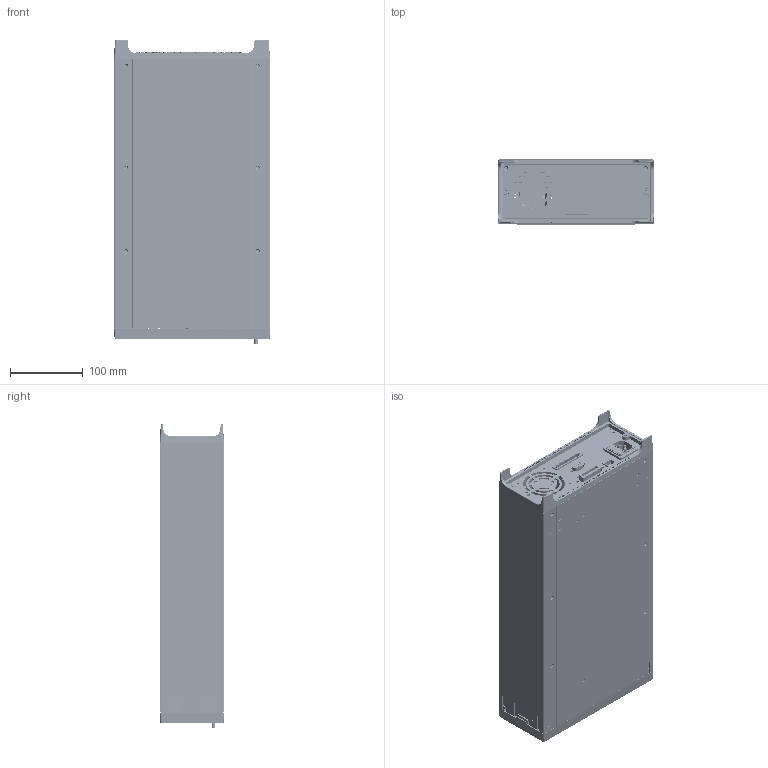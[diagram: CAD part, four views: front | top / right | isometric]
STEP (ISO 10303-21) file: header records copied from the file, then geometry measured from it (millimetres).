
FILE_DESCRIPTION((''),'2;1');
FILE_NAME('2302_ASM','2020-06-30T15:36:15',('dking'),('Keithley Instruments'),'CREO PARAMETRIC BY PTC INC, 2019080','CREO PARAMETRIC BY PTC INC, 2019080','');
FILE_SCHEMA(('AUTOMOTIVE_DESIGN { 1 0 10303 214 1 1 1 1 }'));
Length unit declared in the file: inch
Products named in the file (38): 2306-301; 2302-303; 2302-304; 2302-303_ASM; 2302-302_ASM; 2306-102; 2306-310; 2306-122; 2306-122-TOP-SIDE-COMP; 2306-120_ASM; 2304-305; 2306-112; DD-60; 2306-112-TOP-SIDE-COMP; 2306-110_ASM; 1198741; 1291888; 3374739-LEXAN; 3374739-ALUMINUM; 3374739_ASM; 4-40X1-4PPH; 2306-308; CS-981; SW-466; CS-834; LF-11; 428-303; CH-56-1; 2306-307; TO-247; 2420-315; CS-501; 704-313; CS-1060; 2306-323; FN-34; C-1658643-01-O-3D; 2302_ASM
Assembly tree (59 placements, depth 4):
  2302_ASM
    2302-302_ASM
      2306-301
      2302-303_ASM
        2302-303
        2302-304
    2306-102
    2306-310
    2306-120_ASM
      2306-122
      2306-122-TOP-SIDE-COMP
    2304-305
    2306-110_ASM
      2306-112
      DD-60
      2306-112-TOP-SIDE-COMP
    1198741
    1291888  x4
    3374739_ASM
      3374739-LEXAN  x2
      3374739-ALUMINUM
    4-40X1-4PPH  x4
    2306-308
    CS-981
    SW-466
    CS-834
    LF-11
    428-303
    CH-56-1
    2306-307
    TO-247  x8
    2420-315  x6
    CS-501
    704-313
    CS-1060  x4
    2306-323
    FN-34
    C-1658643-01-O-3D
Bounding box: 214.07 x 88.57 x 416.38 mm (x, y, z)
Volume: 1273750 mm3; surface area: 1346050.1 mm2
Topology: 51 solids, 60 shells, 8657 faces, 43795 edges, 54007 vertices
Faces by surface type: plane 6159, cylinder 1975, cone 378, bspline 64, torus 50, sphere 31
Entity records: 557066 total; most frequent: CARTESIAN_POINT 91682, DIRECTION 61540, PRESENTATION_STYLE_ASSIGNMENT 48431, STYLED_ITEM 47411, ORIENTED_EDGE 43974, CURVE_STYLE 43332, VECTOR 33841, LINE 33841
